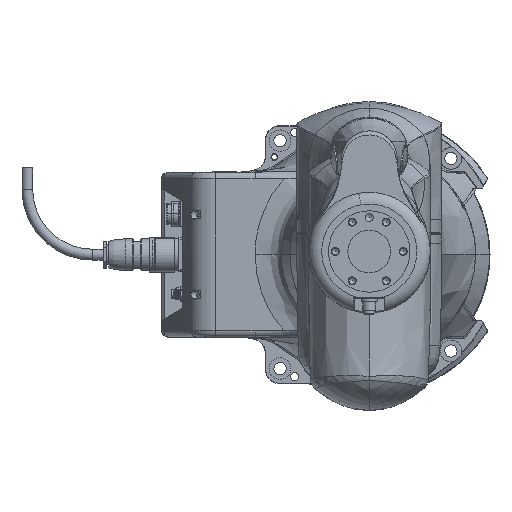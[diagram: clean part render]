
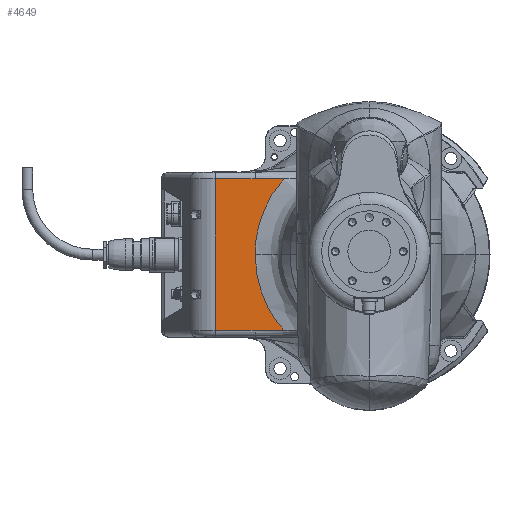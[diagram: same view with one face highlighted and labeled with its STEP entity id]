
A CAD part, top view. The second image highlights one B-rep face of the part: STEP entity #4649.
In plain terms, the highlighted planar face has unit normal (0, 0, 1).
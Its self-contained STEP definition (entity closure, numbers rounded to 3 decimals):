
#1299=(
BOUNDED_CURVE()
B_SPLINE_CURVE(2,(#471536,#471537,#471538),.UNSPECIFIED.,.F.,.F.)
B_SPLINE_CURVE_WITH_KNOTS((3,3),(0.,1.),.UNSPECIFIED.)
CURVE()
GEOMETRIC_REPRESENTATION_ITEM()
RATIONAL_B_SPLINE_CURVE((1.,0.935,1.))
REPRESENTATION_ITEM('')
);
#1300=(
BOUNDED_CURVE()
B_SPLINE_CURVE(2,(#471581,#471582,#471583),.UNSPECIFIED.,.F.,.F.)
B_SPLINE_CURVE_WITH_KNOTS((3,3),(0.,1.),.UNSPECIFIED.)
CURVE()
GEOMETRIC_REPRESENTATION_ITEM()
RATIONAL_B_SPLINE_CURVE((1.,0.935,1.))
REPRESENTATION_ITEM('')
);
#3032=B_SPLINE_CURVE_WITH_KNOTS('',1,(#469870,#469871),.UNSPECIFIED.,.F.,
 .F.,(2,2),(0.,1.),.UNSPECIFIED.);
#3034=B_SPLINE_CURVE_WITH_KNOTS('',1,(#469880,#469881),.UNSPECIFIED.,.F.,
 .F.,(2,2),(0.,1.),.UNSPECIFIED.);
#3046=B_SPLINE_CURVE_WITH_KNOTS('',3,(#471630,#471631,#471632,#471633),
 .UNSPECIFIED.,.F.,.F.,(4,4),(0.,1.),.UNSPECIFIED.);
#3047=B_SPLINE_CURVE_WITH_KNOTS('',3,(#471634,#471635,#471636,#471637,#471638,
#471639,#471640,#471641,#471642,#471643,#471644,#471645,#471646,#471647,
#471648,#471649,#471650,#471651,#471652,#471653,#471654,#471655,#471656),
 .UNSPECIFIED.,.F.,.F.,(4,1,1,1,1,1,1,1,1,1,1,1,1,1,1,1,1,1,1,1,4),(0.,
0.048,0.098,0.148,0.198,
0.248,0.299,0.349,0.399,
0.449,0.499,0.549,0.599,
0.649,0.699,0.749,0.8,0.85,
0.9,0.95,1.),.UNSPECIFIED.);
#4649=ADVANCED_FACE('',(#6630),#6051,.T.);
#6051=PLANE('',#26285);
#6630=FACE_OUTER_BOUND('',#7952,.T.);
#7952=EDGE_LOOP('',(#11368,#11369,#11370,#11371,#11372,#11373,#11374));
#11368=ORIENTED_EDGE('',*,*,#20619,.F.);
#11369=ORIENTED_EDGE('',*,*,#20623,.T.);
#11370=ORIENTED_EDGE('',*,*,#20601,.T.);
#11371=ORIENTED_EDGE('',*,*,#20597,.T.);
#11372=ORIENTED_EDGE('',*,*,#20603,.F.);
#11373=ORIENTED_EDGE('',*,*,#20624,.F.);
#11374=ORIENTED_EDGE('',*,*,#20616,.F.);
#18029=VERTEX_POINT('',#469816);
#18031=VERTEX_POINT('',#469820);
#18034=VERTEX_POINT('',#469872);
#18035=VERTEX_POINT('',#469882);
#18042=VERTEX_POINT('',#471535);
#18043=VERTEX_POINT('',#471539);
#18045=VERTEX_POINT('',#471584);
#20597=EDGE_CURVE('',#18029,#18031,#23693,.T.);
#20601=EDGE_CURVE('',#18034,#18029,#3032,.T.);
#20603=EDGE_CURVE('',#18035,#18031,#3034,.T.);
#20616=EDGE_CURVE('',#18042,#18043,#1299,.T.);
#20619=EDGE_CURVE('',#18045,#18042,#1300,.T.);
#20623=EDGE_CURVE('',#18045,#18034,#3046,.T.);
#20624=EDGE_CURVE('',#18043,#18035,#3047,.T.);
#23693=LINE('',#469821,#24855);
#24855=VECTOR('',#28309,1.);
#26285=AXIS2_PLACEMENT_3D('',#471657,#28328,#28329);
#28309=DIRECTION('',(0.,-1.,0.));
#28328=DIRECTION('',(0.,0.,1.));
#28329=DIRECTION('',(-1.,0.,0.));
#469816=CARTESIAN_POINT('',(-113.627,55.806,65.05));
#469820=CARTESIAN_POINT('',(-113.627,-55.804,65.05));
#469821=CARTESIAN_POINT('',(-113.627,0.001,65.05));
#469870=CARTESIAN_POINT('',(-84.153,55.806,65.05));
#469871=CARTESIAN_POINT('',(-113.627,55.806,65.05));
#469872=CARTESIAN_POINT('',(-84.153,55.806,65.05));
#469880=CARTESIAN_POINT('',(-84.153,-55.804,65.05));
#469881=CARTESIAN_POINT('',(-113.627,-55.804,65.05));
#469882=CARTESIAN_POINT('',(-84.153,-55.804,65.05));
#471535=CARTESIAN_POINT('',(-84.153,0.001,65.05));
#471536=CARTESIAN_POINT('',(-84.153,0.001,65.05));
#471537=CARTESIAN_POINT('',(-84.153,-31.915,65.05));
#471538=CARTESIAN_POINT('',(-62.989,-55.804,65.05));
#471539=CARTESIAN_POINT('',(-62.989,-55.804,65.05));
#471581=CARTESIAN_POINT('',(-62.989,55.806,65.05));
#471582=CARTESIAN_POINT('',(-84.153,31.917,65.05));
#471583=CARTESIAN_POINT('',(-84.153,0.001,65.05));
#471584=CARTESIAN_POINT('',(-62.989,55.806,65.05));
#471630=CARTESIAN_POINT('',(-62.989,55.806,65.05));
#471631=CARTESIAN_POINT('',(-70.043,55.806,65.05));
#471632=CARTESIAN_POINT('',(-77.098,55.806,65.05));
#471633=CARTESIAN_POINT('',(-84.153,55.806,65.05));
#471634=CARTESIAN_POINT('',(-62.989,-55.805,65.05));
#471635=CARTESIAN_POINT('',(-63.327,-55.805,65.049));
#471636=CARTESIAN_POINT('',(-64.019,-55.804,65.051));
#471637=CARTESIAN_POINT('',(-65.064,-55.804,65.05));
#471638=CARTESIAN_POINT('',(-66.125,-55.804,65.05));
#471639=CARTESIAN_POINT('',(-67.185,-55.804,65.05));
#471640=CARTESIAN_POINT('',(-68.246,-55.804,65.05));
#471641=CARTESIAN_POINT('',(-69.306,-55.804,65.05));
#471642=CARTESIAN_POINT('',(-70.367,-55.804,65.05));
#471643=CARTESIAN_POINT('',(-71.427,-55.804,65.05));
#471644=CARTESIAN_POINT('',(-72.488,-55.804,65.05));
#471645=CARTESIAN_POINT('',(-73.548,-55.804,65.05));
#471646=CARTESIAN_POINT('',(-74.609,-55.804,65.05));
#471647=CARTESIAN_POINT('',(-75.669,-55.804,65.05));
#471648=CARTESIAN_POINT('',(-76.729,-55.804,65.05));
#471649=CARTESIAN_POINT('',(-77.79,-55.804,65.05));
#471650=CARTESIAN_POINT('',(-78.85,-55.804,65.05));
#471651=CARTESIAN_POINT('',(-79.911,-55.804,65.05));
#471652=CARTESIAN_POINT('',(-80.971,-55.804,65.05));
#471653=CARTESIAN_POINT('',(-82.032,-55.804,65.05));
#471654=CARTESIAN_POINT('',(-83.092,-55.804,65.05));
#471655=CARTESIAN_POINT('',(-83.799,-55.804,65.05));
#471656=CARTESIAN_POINT('',(-84.153,-55.804,65.05));
#471657=CARTESIAN_POINT('',(-113.627,55.806,65.05));
